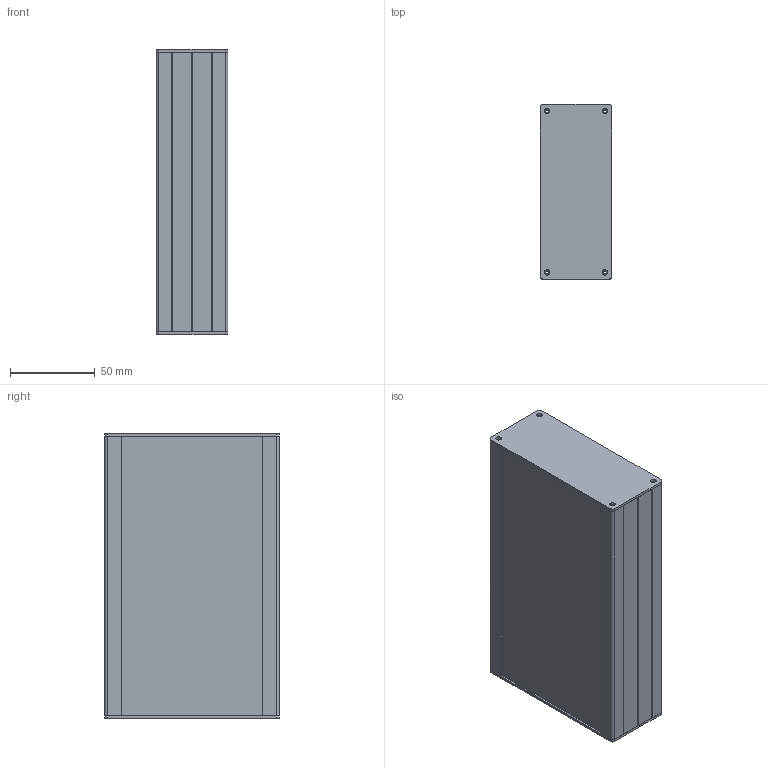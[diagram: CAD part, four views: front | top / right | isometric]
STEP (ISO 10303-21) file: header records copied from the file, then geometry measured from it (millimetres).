
FILE_DESCRIPTION (( 'STEP AP214' ), '1' );
FILE_NAME ('SP42.STEP', '2019-05-29T07:31:25', ( '' ), ( '' ), 'SwSTEP 2.0', 'SolidWorks 2017', '' );
FILE_SCHEMA (( 'AUTOMOTIVE_DESIGN' ));
Length unit declared in the file: millimetre
Products named in the file (4): Sp42_deckelteil; SP42; Sp42_Seitenteil; Sp42_frontteil
Assembly tree (6 placements, depth 2):
  SP42
    Sp42_Seitenteil  x2
    Sp42_deckelteil  x2
    Sp42_frontteil  x2
Bounding box: 42 x 103 x 168 mm (x, y, z)
Volume: 107624.8 mm3; surface area: 135741.1 mm2
Topology: 6 solids, 6 shells, 214 faces, 606 edges, 404 vertices
Faces by surface type: plane 178, cylinder 36
Full cylindrical faces by diameter (mm): 3.2 x8
Entity records: 3607 total; most frequent: CARTESIAN_POINT 617, ORIENTED_EDGE 598, DIRECTION 567, EDGE_CURVE 299, VECTOR 263, LINE 263, VERTEX_POINT 202, AXIS2_PLACEMENT_3D 152
